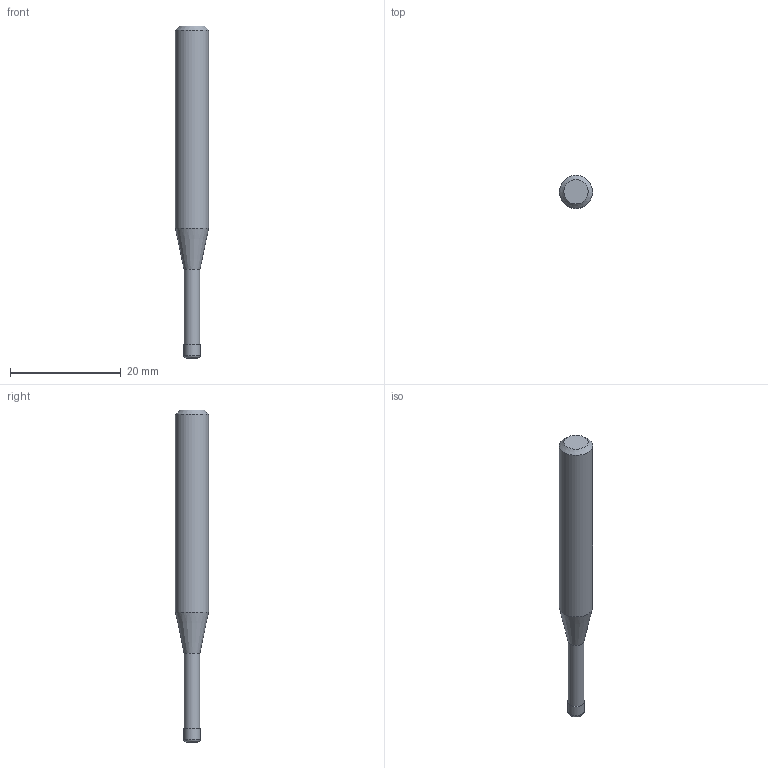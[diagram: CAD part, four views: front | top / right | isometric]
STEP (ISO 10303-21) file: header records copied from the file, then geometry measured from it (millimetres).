
FILE_DESCRIPTION((''),'2;1');
FILE_NAME('C:\Users\nsx150\AppData\Local\Temp\Mastercam 2021\3SYKECWX22\TEMP.step','2021-04-22T09:50:57',(''),(''),'STEP Write','Mastercam 2021 ... CNC Software, Inc.','');
FILE_SCHEMA(('AUTOMOTIVE_DESIGN'));
Length unit declared in the file: millimetre
Products named in the file (1): None
Bounding box: 6 x 6 x 60 mm (x, y, z)
Volume: 1251.2 mm3; surface area: 976.4 mm2
Topology: 2 solids, 2 shells, 10 faces, 14 edges, 8 vertices
Faces by surface type: plane 4, cylinder 3, cone 2, torus 1
Full cylindrical faces by diameter (mm): 2.85 x1, 3 x1, 6 x1
Entity records: 232 total; most frequent: DIRECTION 40, CARTESIAN_POINT 28, AXIS2_PLACEMENT_3D 20, ORIENTED_EDGE 16, EDGE_LOOP 16, STYLED_ITEM 13, ADVANCED_FACE 10, FACE_BOUND 10
